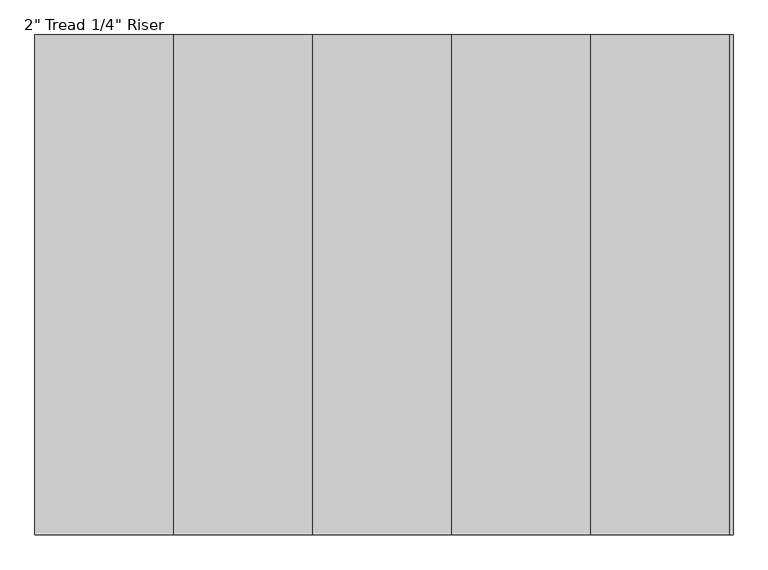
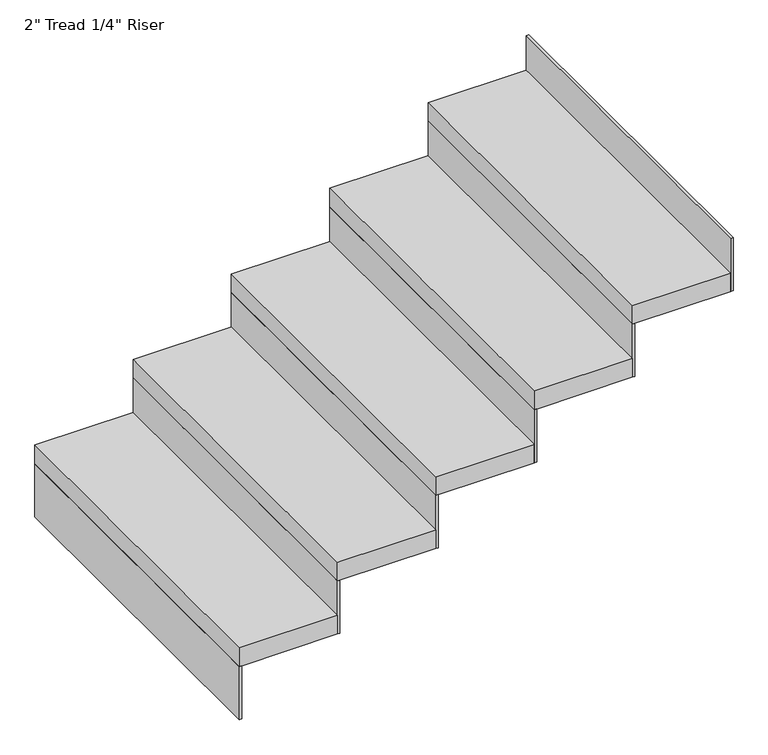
"""IFC4 building model written with IfcOpenShell, lengths in millimetres: stair flight geometry."""

from ifc_helpers import new_model, si_unit, frame, origin, place, context, project, spatial, polyline, outline, extrude, source, transform, mapped, element, save


def stair_flight_31af6763(model_context):
    return source(origin(), model_context, "Body", "SweptSolid", [
        extrude(outline(polyline([(89352.2645262, -2400.7855758), (89345.9145262, -2400.7855758), (89345.9145262, -1486.3855758), (89352.2645262, -1486.3855758), (89352.2645262, -2400.7855758)])), frame((0.0, 0.0, 2126.3428571), z_axis=(0.0, 0.0, 1.0), x_axis=(1.0, 0.0, 0.0)), (0.0, 0.0, 1.0), 145.1428571),
        extrude(outline(polyline([(89599.9145262, -1486.3855758), (89599.9145262, -2400.7855758), (89345.9145262, -2400.7855758), (89345.9145262, -1486.3855758), (89599.9145262, -1486.3855758)])), frame((0.0, 0.0, 2271.4857143), z_axis=(0.0, 0.0, 1.0), x_axis=(1.0, 0.0, 0.0)), (0.0, 0.0, 1.0), 50.8),
        extrude(outline(polyline([(89606.2645262, -2400.7855758), (89599.9145262, -2400.7855758), (89599.9145262, -1486.3855758), (89606.2645262, -1486.3855758), (89606.2645262, -2400.7855758)])), frame((0.0, 0.0, 2271.4857143), z_axis=(0.0, 0.0, 1.0), x_axis=(1.0, 0.0, 0.0)), (0.0, 0.0, 1.0), 145.1428571),
        extrude(outline(polyline([(89853.9145262, -1486.3855758), (89853.9145262, -2400.7855758), (89599.9145262, -2400.7855758), (89599.9145262, -1486.3855758), (89853.9145262, -1486.3855758)])), frame((0.0, 0.0, 2416.6285714), z_axis=(0.0, 0.0, 1.0), x_axis=(1.0, 0.0, 0.0)), (0.0, 0.0, 1.0), 50.8),
        extrude(outline(polyline([(89860.2645262, -2400.7855758), (89853.9145262, -2400.7855758), (89853.9145262, -1486.3855758), (89860.2645262, -1486.3855758), (89860.2645262, -2400.7855758)])), frame((0.0, 0.0, 2416.6285714), z_axis=(0.0, 0.0, 1.0), x_axis=(1.0, 0.0, 0.0)), (0.0, 0.0, 1.0), 145.1428571),
        extrude(outline(polyline([(90107.9145262, -1486.3855758), (90107.9145262, -2400.7855758), (89853.9145262, -2400.7855758), (89853.9145262, -1486.3855758), (90107.9145262, -1486.3855758)])), frame((0.0, 0.0, 2561.7714286), z_axis=(0.0, 0.0, 1.0), x_axis=(1.0, 0.0, 0.0)), (0.0, 0.0, 1.0), 50.8),
        extrude(outline(polyline([(90114.2645262, -2400.7855758), (90107.9145262, -2400.7855758), (90107.9145262, -1486.3855758), (90114.2645262, -1486.3855758), (90114.2645262, -2400.7855758)])), frame((0.0, 0.0, 2561.7714286), z_axis=(0.0, 0.0, 1.0), x_axis=(1.0, 0.0, 0.0)), (0.0, 0.0, 1.0), 145.1428571),
        extrude(outline(polyline([(90361.9145262, -1486.3855758), (90361.9145262, -2400.7855758), (90107.9145262, -2400.7855758), (90107.9145262, -1486.3855758), (90361.9145262, -1486.3855758)])), frame((0.0, 0.0, 2706.9142857), z_axis=(0.0, 0.0, 1.0), x_axis=(1.0, 0.0, 0.0)), (0.0, 0.0, 1.0), 50.8),
        extrude(outline(polyline([(90368.2645262, -2400.7855758), (90361.9145262, -2400.7855758), (90361.9145262, -1486.3855758), (90368.2645262, -1486.3855758), (90368.2645262, -2400.7855758)])), frame((0.0, 0.0, 2706.9142857), z_axis=(0.0, 0.0, 1.0), x_axis=(1.0, 0.0, 0.0)), (0.0, 0.0, 1.0), 145.1428571),
        extrude(outline(polyline([(90622.2645262, -2400.7855758), (90615.9145262, -2400.7855758), (90615.9145262, -1486.3855758), (90622.2645262, -1486.3855758), (90622.2645262, -2400.7855758)])), frame((0.0, 0.0, 2852.0571429), z_axis=(0.0, 0.0, 1.0), x_axis=(1.0, 0.0, 0.0)), (0.0, 0.0, 1.0), 145.1428571),
        extrude(outline(polyline([(90615.9145262, -1486.3855758), (90615.9145262, -2400.7855758), (90361.9145262, -2400.7855758), (90361.9145262, -1486.3855758), (90615.9145262, -1486.3855758)])), frame((0.0, 0.0, 2852.0571429), z_axis=(0.0, 0.0, 1.0), x_axis=(1.0, 0.0, 0.0)), (0.0, 0.0, 1.0), 50.8),
    ])


if __name__ == "__main__":
    model = new_model("IFC4")
    model_context = context("Model", 3, world=origin())
    ifc_project = project(units=[si_unit("LENGTHUNIT", "METRE", prefix="MILLI")], contexts=[model_context])
    site = spatial("IfcSite", under=ifc_project)
    building = spatial("IfcBuilding", under=site)
    placement = place(None, origin())
    stair_flight_shape = stair_flight_31af6763(model_context)
    element("IfcStairFlight", 1, ObjectType="2\" Tread 1/4\" Riser", at=placement, inside=building, context=model_context, shape_type="MappedRepresentation", body=[
        mapped(stair_flight_shape, transform((0.0, 0.0, 0.0), x_axis=(1.0, 0.0, 0.0), y_axis=(0.0, 1.0, 0.0), z_axis=(0.0, 0.0, 1.0))),
    ])
    save(model, "model.ifc")
